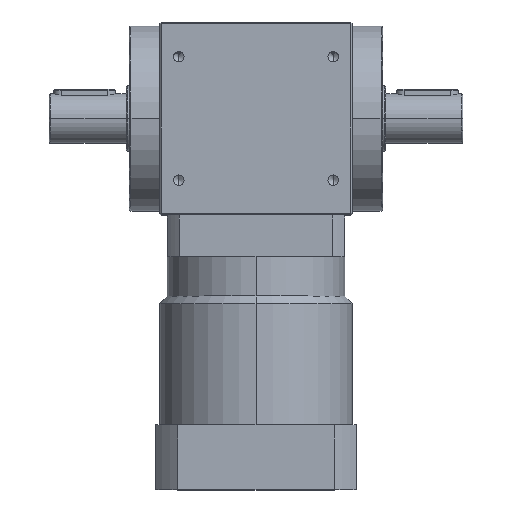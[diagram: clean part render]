
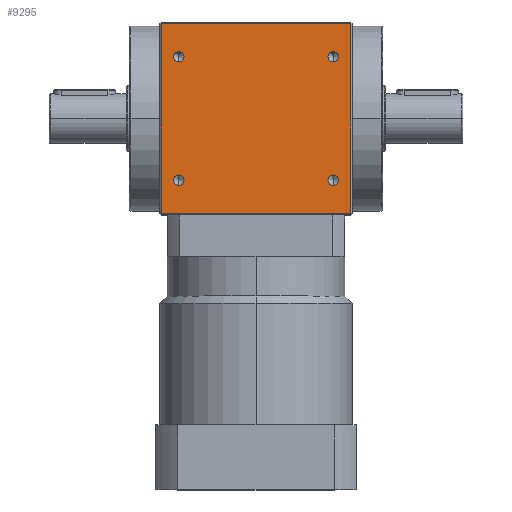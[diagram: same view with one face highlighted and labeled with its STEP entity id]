
A CAD part, top view. The second image highlights one B-rep face of the part: STEP entity #9295.
In plain terms, the highlighted planar face has unit normal (0, 0, 1).
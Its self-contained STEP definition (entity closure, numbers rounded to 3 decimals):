
#82 = ORIENTED_EDGE ( 'NONE', *, *, #2262, .F. ) ;
#141 = CARTESIAN_POINT ( 'NONE',  ( 61.5, 61.5, 62.5 ) ) ;
#427 = PLANE ( 'NONE',  #7596 ) ;
#463 = EDGE_CURVE ( 'NONE', #3176, #6277, #8347, .T. ) ;
#467 = DIRECTION ( 'NONE',  ( 0., 0., -1. ) ) ;
#528 = ORIENTED_EDGE ( 'NONE', *, *, #1764, .F. ) ;
#689 = VERTEX_POINT ( 'NONE', #8317 ) ;
#1228 = CARTESIAN_POINT ( 'NONE',  ( 50., 36.6, 62.5 ) ) ;
#1237 = DIRECTION ( 'NONE',  ( 1., 0., 0. ) ) ;
#1363 = FACE_OUTER_BOUND ( 'NONE', #2112, .T. ) ;
#1411 = AXIS2_PLACEMENT_3D ( 'NONE', #1895, #2857, #2825 ) ;
#1447 = EDGE_CURVE ( 'NONE', #8860, #7780, #1671, .T. ) ;
#1474 = CARTESIAN_POINT ( 'NONE',  ( 0., -61.5, 62.5 ) ) ;
#1571 = EDGE_CURVE ( 'NONE', #2504, #7993, #8373, .T. ) ;
#1596 = DIRECTION ( 'NONE',  ( 1., 0., 0. ) ) ;
#1615 = CARTESIAN_POINT ( 'NONE',  ( 0., 61.5, 62.5 ) ) ;
#1649 = EDGE_CURVE ( 'NONE', #6277, #6498, #8588, .T. ) ;
#1671 = CIRCLE ( 'NONE', #3860, 3.4 ) ;
#1754 = CARTESIAN_POINT ( 'NONE',  ( -50., -40., 62.5 ) ) ;
#1764 = EDGE_CURVE ( 'NONE', #3786, #2430, #7818, .T. ) ;
#1837 = CARTESIAN_POINT ( 'NONE',  ( 61.5, -61.5, 62.5 ) ) ;
#1895 = CARTESIAN_POINT ( 'NONE',  ( -50., 40., 62.5 ) ) ;
#2017 = DIRECTION ( 'NONE',  ( 0., -1., 0. ) ) ;
#2020 = DIRECTION ( 'NONE',  ( 0., 0., 1. ) ) ;
#2033 = CARTESIAN_POINT ( 'NONE',  ( 50., 40., 62.5 ) ) ;
#2112 = EDGE_LOOP ( 'NONE', ( #2229, #9309, #3737, #3501 ) ) ;
#2178 = CIRCLE ( 'NONE', #6158, 3.4 ) ;
#2179 = EDGE_LOOP ( 'NONE', ( #4787, #82 ) ) ;
#2229 = ORIENTED_EDGE ( 'NONE', *, *, #3770, .T. ) ;
#2262 = EDGE_CURVE ( 'NONE', #7780, #8860, #5268, .T. ) ;
#2356 = EDGE_CURVE ( 'NONE', #6960, #689, #3637, .T. ) ;
#2360 = CARTESIAN_POINT ( 'NONE',  ( 50., -43.4, 62.5 ) ) ;
#2430 = VERTEX_POINT ( 'NONE', #6947 ) ;
#2504 = VERTEX_POINT ( 'NONE', #9276 ) ;
#2638 = CARTESIAN_POINT ( 'NONE',  ( 61.5, 0., 62.5 ) ) ;
#2657 = DIRECTION ( 'NONE',  ( 0., -1., 0. ) ) ;
#2704 = EDGE_CURVE ( 'NONE', #7993, #2504, #2178, .T. ) ;
#2825 = DIRECTION ( 'NONE',  ( 0., -1., 0. ) ) ;
#2857 = DIRECTION ( 'NONE',  ( 0., 0., 1. ) ) ;
#2951 = VECTOR ( 'NONE', #2657, 1000. ) ;
#2955 = EDGE_CURVE ( 'NONE', #8739, #3176, #7634, .T. ) ;
#3075 = EDGE_CURVE ( 'NONE', #2430, #3786, #9047, .T. ) ;
#3176 = VERTEX_POINT ( 'NONE', #4922 ) ;
#3188 = CIRCLE ( 'NONE', #1411, 3.4 ) ;
#3241 = DIRECTION ( 'NONE',  ( 0., -1., 0. ) ) ;
#3251 = DIRECTION ( 'NONE',  ( 0., 0., 1. ) ) ;
#3260 = CARTESIAN_POINT ( 'NONE',  ( -50., -40., 62.5 ) ) ;
#3365 = FACE_BOUND ( 'NONE', #8002, .T. ) ;
#3501 = ORIENTED_EDGE ( 'NONE', *, *, #2955, .F. ) ;
#3534 = EDGE_CURVE ( 'NONE', #689, #6960, #3188, .T. ) ;
#3637 = CIRCLE ( 'NONE', #8282, 3.4 ) ;
#3737 = ORIENTED_EDGE ( 'NONE', *, *, #463, .F. ) ;
#3770 = EDGE_CURVE ( 'NONE', #8739, #6498, #7916, .T. ) ;
#3786 = VERTEX_POINT ( 'NONE', #1228 ) ;
#3860 = AXIS2_PLACEMENT_3D ( 'NONE', #4069, #4061, #4051 ) ;
#3882 = AXIS2_PLACEMENT_3D ( 'NONE', #5653, #5630, #5614 ) ;
#4051 = DIRECTION ( 'NONE',  ( 0., -1., 0. ) ) ;
#4061 = DIRECTION ( 'NONE',  ( 0., 0., 1. ) ) ;
#4069 = CARTESIAN_POINT ( 'NONE',  ( 50., -40., 62.5 ) ) ;
#4559 = ORIENTED_EDGE ( 'NONE', *, *, #2356, .F. ) ;
#4787 = ORIENTED_EDGE ( 'NONE', *, *, #1447, .F. ) ;
#4802 = AXIS2_PLACEMENT_3D ( 'NONE', #3260, #3251, #3241 ) ;
#4809 = EDGE_LOOP ( 'NONE', ( #6425, #7191 ) ) ;
#4833 = EDGE_LOOP ( 'NONE', ( #4559, #6797 ) ) ;
#4860 = CARTESIAN_POINT ( 'NONE',  ( 0., 0., 62.5 ) ) ;
#4922 = CARTESIAN_POINT ( 'NONE',  ( -61.5, 61.5, 62.5 ) ) ;
#5010 = FACE_BOUND ( 'NONE', #2179, .T. ) ;
#5268 = CIRCLE ( 'NONE', #9324, 3.4 ) ;
#5479 = CARTESIAN_POINT ( 'NONE',  ( 50., -36.6, 62.5 ) ) ;
#5531 = VECTOR ( 'NONE', #1596, 1000. ) ;
#5576 = DIRECTION ( 'NONE',  ( -1., 0., 0. ) ) ;
#5614 = DIRECTION ( 'NONE',  ( 0., -1., 0. ) ) ;
#5630 = DIRECTION ( 'NONE',  ( 0., 0., 1. ) ) ;
#5653 = CARTESIAN_POINT ( 'NONE',  ( 50., 40., 62.5 ) ) ;
#5754 = VECTOR ( 'NONE', #6784, 1000. ) ;
#5820 = VECTOR ( 'NONE', #1237, 1000. ) ;
#6158 = AXIS2_PLACEMENT_3D ( 'NONE', #1754, #8137, #8123 ) ;
#6277 = VERTEX_POINT ( 'NONE', #141 ) ;
#6425 = ORIENTED_EDGE ( 'NONE', *, *, #1571, .F. ) ;
#6498 = VERTEX_POINT ( 'NONE', #1837 ) ;
#6784 = DIRECTION ( 'NONE',  ( 0., 1., 0. ) ) ;
#6797 = ORIENTED_EDGE ( 'NONE', *, *, #3534, .F. ) ;
#6833 = CARTESIAN_POINT ( 'NONE',  ( -61.5, 0., 62.5 ) ) ;
#6871 = FACE_BOUND ( 'NONE', #4833, .T. ) ;
#6947 = CARTESIAN_POINT ( 'NONE',  ( 50., 43.4, 62.5 ) ) ;
#6960 = VERTEX_POINT ( 'NONE', #8159 ) ;
#7191 = ORIENTED_EDGE ( 'NONE', *, *, #2704, .F. ) ;
#7334 = CARTESIAN_POINT ( 'NONE',  ( -50., -36.6, 62.5 ) ) ;
#7563 = CARTESIAN_POINT ( 'NONE',  ( 50., -40., 62.5 ) ) ;
#7596 = AXIS2_PLACEMENT_3D ( 'NONE', #4860, #467, #5576 ) ;
#7634 = LINE ( 'NONE', #6833, #5754 ) ;
#7780 = VERTEX_POINT ( 'NONE', #5479 ) ;
#7818 = CIRCLE ( 'NONE', #8838, 3.4 ) ;
#7868 = CARTESIAN_POINT ( 'NONE',  ( -61.5, -61.5, 62.5 ) ) ;
#7916 = LINE ( 'NONE', #1474, #5820 ) ;
#7993 = VERTEX_POINT ( 'NONE', #7334 ) ;
#8002 = EDGE_LOOP ( 'NONE', ( #528, #8499 ) ) ;
#8123 = DIRECTION ( 'NONE',  ( 0., -1., 0. ) ) ;
#8137 = DIRECTION ( 'NONE',  ( 0., 0., 1. ) ) ;
#8159 = CARTESIAN_POINT ( 'NONE',  ( -50., 36.6, 62.5 ) ) ;
#8216 = DIRECTION ( 'NONE',  ( 0., 0., 1. ) ) ;
#8243 = CARTESIAN_POINT ( 'NONE',  ( -50., 40., 62.5 ) ) ;
#8282 = AXIS2_PLACEMENT_3D ( 'NONE', #8243, #8320, #8474 ) ;
#8317 = CARTESIAN_POINT ( 'NONE',  ( -50., 43.4, 62.5 ) ) ;
#8320 = DIRECTION ( 'NONE',  ( 0., 0., 1. ) ) ;
#8347 = LINE ( 'NONE', #1615, #5531 ) ;
#8373 = CIRCLE ( 'NONE', #4802, 3.4 ) ;
#8398 = DIRECTION ( 'NONE',  ( 0., -1., 0. ) ) ;
#8474 = DIRECTION ( 'NONE',  ( 0., -1., 0. ) ) ;
#8499 = ORIENTED_EDGE ( 'NONE', *, *, #3075, .F. ) ;
#8588 = LINE ( 'NONE', #2638, #2951 ) ;
#8739 = VERTEX_POINT ( 'NONE', #7868 ) ;
#8742 = FACE_BOUND ( 'NONE', #4809, .T. ) ;
#8838 = AXIS2_PLACEMENT_3D ( 'NONE', #2033, #2020, #2017 ) ;
#8860 = VERTEX_POINT ( 'NONE', #2360 ) ;
#9047 = CIRCLE ( 'NONE', #3882, 3.4 ) ;
#9276 = CARTESIAN_POINT ( 'NONE',  ( -50., -43.4, 62.5 ) ) ;
#9295 = ADVANCED_FACE ( 'NONE', ( #5010, #8742, #3365, #6871, #1363 ), #427, .F. ) ;
#9309 = ORIENTED_EDGE ( 'NONE', *, *, #1649, .F. ) ;
#9324 = AXIS2_PLACEMENT_3D ( 'NONE', #7563, #8216, #8398 ) ;
